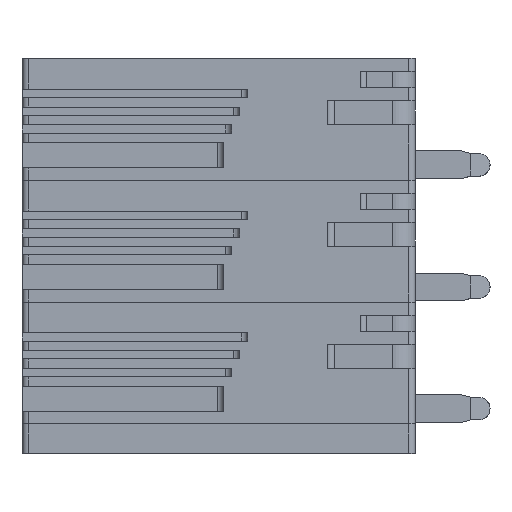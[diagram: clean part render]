
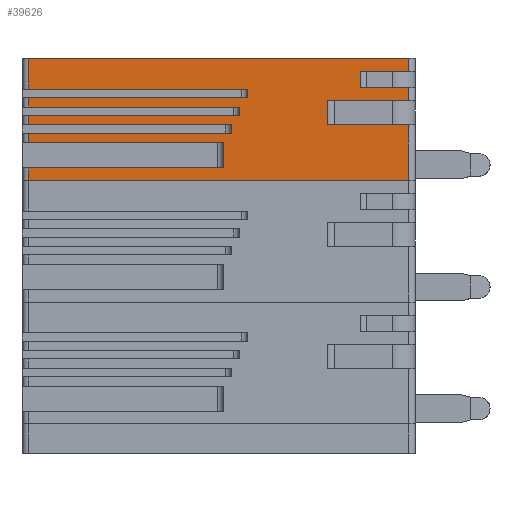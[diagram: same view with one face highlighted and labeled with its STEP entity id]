
A CAD part, top view. The second image highlights one B-rep face of the part: STEP entity #39626.
In plain terms, the highlighted planar face has unit normal (0, 0, 1).
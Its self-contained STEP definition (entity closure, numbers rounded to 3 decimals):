
#28782=DIRECTION('',(1.,0.,0.));
#28783=VECTOR('',#28782,23.4);
#28784=CARTESIAN_POINT('',(-11.7,0.,9.9));
#28785=LINE('',#28784,#28783);
#30871=DIRECTION('',(0.,-1.,0.));
#30872=VECTOR('',#30871,1.);
#30873=CARTESIAN_POINT('',(8.7,6.7,9.9));
#30874=LINE('',#30873,#30872);
#30875=DIRECTION('',(0.,-1.,0.));
#30876=VECTOR('',#30875,0.8);
#30877=CARTESIAN_POINT('',(11.7,5.7,9.9));
#30878=LINE('',#30877,#30876);
#30879=DIRECTION('',(0.,-1.,0.));
#30880=VECTOR('',#30879,1.5);
#30881=CARTESIAN_POINT('',(6.7,4.9,9.9));
#30882=LINE('',#30881,#30880);
#30883=DIRECTION('',(0.,-1.,0.));
#30884=VECTOR('',#30883,3.4);
#30885=CARTESIAN_POINT('',(11.7,3.4,9.9));
#30886=LINE('',#30885,#30884);
#30887=DIRECTION('',(0.,-1.,0.));
#30888=VECTOR('',#30887,0.75);
#30889=CARTESIAN_POINT('',(-11.7,0.75,9.9));
#30890=LINE('',#30889,#30888);
#30891=DIRECTION('',(1.,0.,0.));
#30892=VECTOR('',#30891,12.);
#30893=CARTESIAN_POINT('',(-11.7,0.75,9.9));
#30894=LINE('',#30893,#30892);
#30895=DIRECTION('',(0.,-1.,0.));
#30896=VECTOR('',#30895,1.55);
#30897=CARTESIAN_POINT('',(0.3,2.3,9.9));
#30898=LINE('',#30897,#30896);
#30899=DIRECTION('',(1.,0.,0.));
#30900=VECTOR('',#30899,12.);
#30901=CARTESIAN_POINT('',(-11.7,2.3,9.9));
#30902=LINE('',#30901,#30900);
#30903=DIRECTION('',(0.,-1.,0.));
#30904=VECTOR('',#30903,0.6);
#30905=CARTESIAN_POINT('',(-11.7,2.9,9.9));
#30906=LINE('',#30905,#30904);
#30907=DIRECTION('',(1.,0.,0.));
#30908=VECTOR('',#30907,12.5);
#30909=CARTESIAN_POINT('',(-11.7,2.9,9.9));
#30910=LINE('',#30909,#30908);
#30911=DIRECTION('',(0.,-1.,0.));
#30912=VECTOR('',#30911,0.5);
#30913=CARTESIAN_POINT('',(0.8,3.4,9.9));
#30914=LINE('',#30913,#30912);
#30915=DIRECTION('',(1.,0.,0.));
#30916=VECTOR('',#30915,12.5);
#30917=CARTESIAN_POINT('',(-11.7,3.4,9.9));
#30918=LINE('',#30917,#30916);
#30919=DIRECTION('',(0.,-1.,0.));
#30920=VECTOR('',#30919,0.6);
#30921=CARTESIAN_POINT('',(-11.7,4.,9.9));
#30922=LINE('',#30921,#30920);
#30923=DIRECTION('',(1.,0.,0.));
#30924=VECTOR('',#30923,13.);
#30925=CARTESIAN_POINT('',(-11.7,4.,9.9));
#30926=LINE('',#30925,#30924);
#30927=DIRECTION('',(0.,-1.,0.));
#30928=VECTOR('',#30927,0.5);
#30929=CARTESIAN_POINT('',(1.3,4.5,9.9));
#30930=LINE('',#30929,#30928);
#30931=DIRECTION('',(1.,0.,0.));
#30932=VECTOR('',#30931,13.);
#30933=CARTESIAN_POINT('',(-11.7,4.5,9.9));
#30934=LINE('',#30933,#30932);
#30935=DIRECTION('',(0.,-1.,0.));
#30936=VECTOR('',#30935,0.6);
#30937=CARTESIAN_POINT('',(-11.7,5.1,9.9));
#30938=LINE('',#30937,#30936);
#30939=DIRECTION('',(1.,0.,0.));
#30940=VECTOR('',#30939,13.5);
#30941=CARTESIAN_POINT('',(-11.7,5.1,9.9));
#30942=LINE('',#30941,#30940);
#30943=DIRECTION('',(0.,-1.,0.));
#30944=VECTOR('',#30943,0.5);
#30945=CARTESIAN_POINT('',(1.8,5.6,9.9));
#30946=LINE('',#30945,#30944);
#30947=DIRECTION('',(1.,0.,0.));
#30948=VECTOR('',#30947,13.5);
#30949=CARTESIAN_POINT('',(-11.7,5.6,9.9));
#30950=LINE('',#30949,#30948);
#30951=DIRECTION('',(0.,-1.,0.));
#30952=VECTOR('',#30951,1.9);
#30953=CARTESIAN_POINT('',(-11.7,7.5,9.9));
#30954=LINE('',#30953,#30952);
#30955=DIRECTION('',(0.,-1.,0.));
#30956=VECTOR('',#30955,0.8);
#30957=CARTESIAN_POINT('',(11.7,7.5,9.9));
#30958=LINE('',#30957,#30956);
#31022=DIRECTION('',(-1.,0.,0.));
#31023=VECTOR('',#31022,3.);
#31024=CARTESIAN_POINT('',(11.7,5.7,9.9));
#31025=LINE('',#31024,#31023);
#31250=DIRECTION('',(1.,0.,0.));
#31251=VECTOR('',#31250,3.);
#31252=CARTESIAN_POINT('',(8.7,6.7,9.9));
#31253=LINE('',#31252,#31251);
#31606=DIRECTION('',(-1.,0.,0.));
#31607=VECTOR('',#31606,5.);
#31608=CARTESIAN_POINT('',(11.7,3.4,9.9));
#31609=LINE('',#31608,#31607);
#31680=DIRECTION('',(1.,0.,0.));
#31681=VECTOR('',#31680,5.);
#31682=CARTESIAN_POINT('',(6.7,4.9,9.9));
#31683=LINE('',#31682,#31681);
#31805=DIRECTION('',(1.,0.,0.));
#31806=VECTOR('',#31805,23.4);
#31807=CARTESIAN_POINT('',(-11.7,7.5,9.9));
#31808=LINE('',#31807,#31806);
#36714=CARTESIAN_POINT('',(11.7,0.,9.9));
#36716=VERTEX_POINT('',#36714);
#36717=CARTESIAN_POINT('',(11.7,3.4,9.9));
#36718=VERTEX_POINT('',#36717);
#36722=CARTESIAN_POINT('',(11.7,4.9,9.9));
#36724=VERTEX_POINT('',#36722);
#36725=CARTESIAN_POINT('',(11.7,5.7,9.9));
#36726=VERTEX_POINT('',#36725);
#36730=CARTESIAN_POINT('',(11.7,6.7,9.9));
#36732=VERTEX_POINT('',#36730);
#36733=CARTESIAN_POINT('',(11.7,7.5,9.9));
#36734=VERTEX_POINT('',#36733);
#36737=CARTESIAN_POINT('',(-11.7,0.,9.9));
#36739=VERTEX_POINT('',#36737);
#36742=CARTESIAN_POINT('',(-11.7,7.5,9.9));
#36744=VERTEX_POINT('',#36742);
#36769=CARTESIAN_POINT('',(-11.7,0.75,9.9));
#36770=VERTEX_POINT('',#36769);
#36771=CARTESIAN_POINT('',(-11.7,2.3,9.9));
#36772=VERTEX_POINT('',#36771);
#36773=CARTESIAN_POINT('',(-11.7,2.9,9.9));
#36774=VERTEX_POINT('',#36773);
#36775=CARTESIAN_POINT('',(-11.7,3.4,9.9));
#36776=VERTEX_POINT('',#36775);
#36777=CARTESIAN_POINT('',(-11.7,4.,9.9));
#36778=VERTEX_POINT('',#36777);
#36779=CARTESIAN_POINT('',(-11.7,4.5,9.9));
#36780=VERTEX_POINT('',#36779);
#36781=CARTESIAN_POINT('',(-11.7,5.1,9.9));
#36782=VERTEX_POINT('',#36781);
#36783=CARTESIAN_POINT('',(-11.7,5.6,9.9));
#36784=VERTEX_POINT('',#36783);
#36786=CARTESIAN_POINT('',(8.7,5.7,9.9));
#36788=VERTEX_POINT('',#36786);
#36789=CARTESIAN_POINT('',(8.7,6.7,9.9));
#36790=VERTEX_POINT('',#36789);
#36794=CARTESIAN_POINT('',(6.7,3.4,9.9));
#36796=VERTEX_POINT('',#36794);
#36797=CARTESIAN_POINT('',(6.7,4.9,9.9));
#36798=VERTEX_POINT('',#36797);
#36801=CARTESIAN_POINT('',(1.8,5.1,9.9));
#36803=VERTEX_POINT('',#36801);
#36807=CARTESIAN_POINT('',(1.8,5.6,9.9));
#36808=VERTEX_POINT('',#36807);
#36809=CARTESIAN_POINT('',(1.3,4.,9.9));
#36811=VERTEX_POINT('',#36809);
#36815=CARTESIAN_POINT('',(1.3,4.5,9.9));
#36816=VERTEX_POINT('',#36815);
#36817=CARTESIAN_POINT('',(0.8,2.9,9.9));
#36819=VERTEX_POINT('',#36817);
#36823=CARTESIAN_POINT('',(0.8,3.4,9.9));
#36824=VERTEX_POINT('',#36823);
#36825=CARTESIAN_POINT('',(0.3,0.75,9.9));
#36827=VERTEX_POINT('',#36825);
#36831=CARTESIAN_POINT('',(0.3,2.3,9.9));
#36832=VERTEX_POINT('',#36831);
#39573=CARTESIAN_POINT('',(-12.1,0.,9.9));
#39574=DIRECTION('',(0.,0.,1.));
#39575=DIRECTION('',(1.,0.,0.));
#39576=AXIS2_PLACEMENT_3D('',#39573,#39574,#39575);
#39577=PLANE('',#39576);
#39579=ORIENTED_EDGE('',*,*,#39578,.T.);
#39581=ORIENTED_EDGE('',*,*,#39580,.F.);
#39583=ORIENTED_EDGE('',*,*,#39582,.T.);
#39585=ORIENTED_EDGE('',*,*,#39584,.F.);
#39587=ORIENTED_EDGE('',*,*,#39586,.T.);
#39589=ORIENTED_EDGE('',*,*,#39588,.F.);
#39591=ORIENTED_EDGE('',*,*,#39590,.T.);
#39592=ORIENTED_EDGE('',*,*,#36936,.F.);
#39593=ORIENTED_EDGE('',*,*,#39390,.F.);
#39594=ORIENTED_EDGE('',*,*,#39464,.T.);
#39595=ORIENTED_EDGE('',*,*,#39482,.F.);
#39597=ORIENTED_EDGE('',*,*,#39596,.F.);
#39598=ORIENTED_EDGE('',*,*,#39407,.F.);
#39600=ORIENTED_EDGE('',*,*,#39599,.T.);
#39602=ORIENTED_EDGE('',*,*,#39601,.F.);
#39604=ORIENTED_EDGE('',*,*,#39603,.F.);
#39605=ORIENTED_EDGE('',*,*,#39422,.F.);
#39607=ORIENTED_EDGE('',*,*,#39606,.T.);
#39609=ORIENTED_EDGE('',*,*,#39608,.F.);
#39611=ORIENTED_EDGE('',*,*,#39610,.F.);
#39612=ORIENTED_EDGE('',*,*,#39437,.F.);
#39613=ORIENTED_EDGE('',*,*,#39566,.T.);
#39614=ORIENTED_EDGE('',*,*,#39555,.F.);
#39616=ORIENTED_EDGE('',*,*,#39615,.F.);
#39617=ORIENTED_EDGE('',*,*,#39452,.F.);
#39619=ORIENTED_EDGE('',*,*,#39618,.T.);
#39621=ORIENTED_EDGE('',*,*,#39620,.T.);
#39623=ORIENTED_EDGE('',*,*,#39622,.F.);
#39624=EDGE_LOOP('',(#39579,#39581,#39583,#39585,#39587,#39589,#39591,#39592,
#39593,#39594,#39595,#39597,#39598,#39600,#39602,#39604,#39605,#39607,#39609,
#39611,#39612,#39613,#39614,#39616,#39617,#39619,#39621,#39623));
#39625=FACE_OUTER_BOUND('',#39624,.F.);
#39626=ADVANCED_FACE('',(#39625),#39577,.T.);
#36936=EDGE_CURVE('',#36739,#36716,#28785,.T.);
#39390=EDGE_CURVE('',#36770,#36739,#30890,.T.);
#39407=EDGE_CURVE('',#36774,#36772,#30906,.T.);
#39422=EDGE_CURVE('',#36778,#36776,#30922,.T.);
#39437=EDGE_CURVE('',#36782,#36780,#30938,.T.);
#39452=EDGE_CURVE('',#36744,#36784,#30954,.T.);
#39464=EDGE_CURVE('',#36770,#36827,#30894,.T.);
#39482=EDGE_CURVE('',#36832,#36827,#30898,.T.);
#39555=EDGE_CURVE('',#36808,#36803,#30946,.T.);
#39566=EDGE_CURVE('',#36782,#36803,#30942,.T.);
#39578=EDGE_CURVE('',#36790,#36788,#30874,.T.);
#39580=EDGE_CURVE('',#36726,#36788,#31025,.T.);
#39582=EDGE_CURVE('',#36726,#36724,#30878,.T.);
#39584=EDGE_CURVE('',#36798,#36724,#31683,.T.);
#39586=EDGE_CURVE('',#36798,#36796,#30882,.T.);
#39588=EDGE_CURVE('',#36718,#36796,#31609,.T.);
#39590=EDGE_CURVE('',#36718,#36716,#30886,.T.);
#39596=EDGE_CURVE('',#36772,#36832,#30902,.T.);
#39599=EDGE_CURVE('',#36774,#36819,#30910,.T.);
#39601=EDGE_CURVE('',#36824,#36819,#30914,.T.);
#39603=EDGE_CURVE('',#36776,#36824,#30918,.T.);
#39606=EDGE_CURVE('',#36778,#36811,#30926,.T.);
#39608=EDGE_CURVE('',#36816,#36811,#30930,.T.);
#39610=EDGE_CURVE('',#36780,#36816,#30934,.T.);
#39615=EDGE_CURVE('',#36784,#36808,#30950,.T.);
#39618=EDGE_CURVE('',#36744,#36734,#31808,.T.);
#39620=EDGE_CURVE('',#36734,#36732,#30958,.T.);
#39622=EDGE_CURVE('',#36790,#36732,#31253,.T.);
